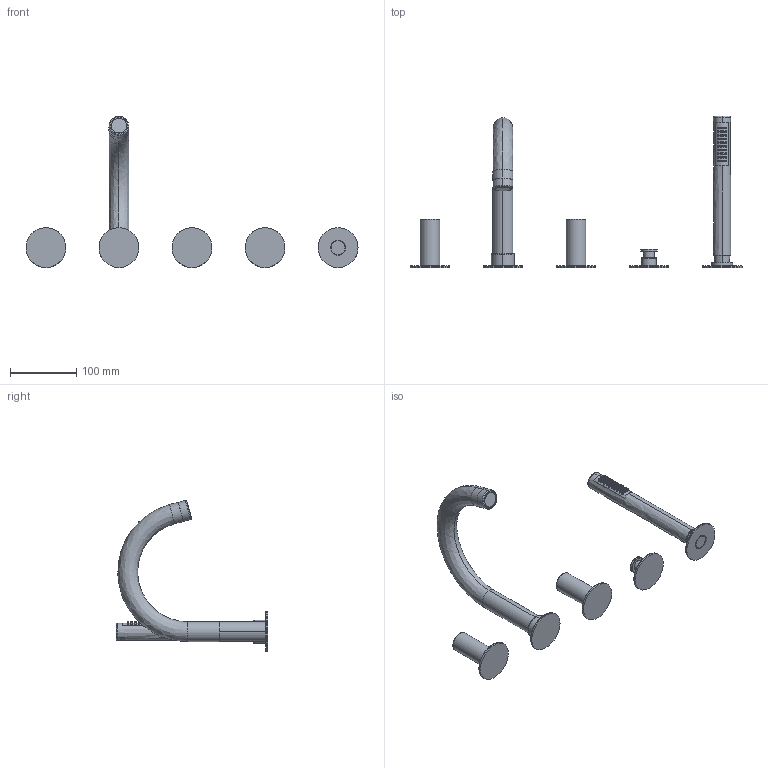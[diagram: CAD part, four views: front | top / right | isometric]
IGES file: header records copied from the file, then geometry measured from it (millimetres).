
Start section:  PTC IGES file: 12029A.igs
Global section: file name: 12029A.igs; native system: Creo Parametric by PTC Inc.; preprocessor: 2022014; author: carloff; organization: Unknown; date: 20250304.091405; units: millimetre
Bounding box: 500 x 228.5 x 227.73 mm (x, y, z)
Surface area: 121129.3 mm2 (no closed solid volume)
Topology: 0 solids, 0 shells, 683 faces, 4294 edges, 4274 vertices
Faces by surface type: bspline 364, revolution 319
